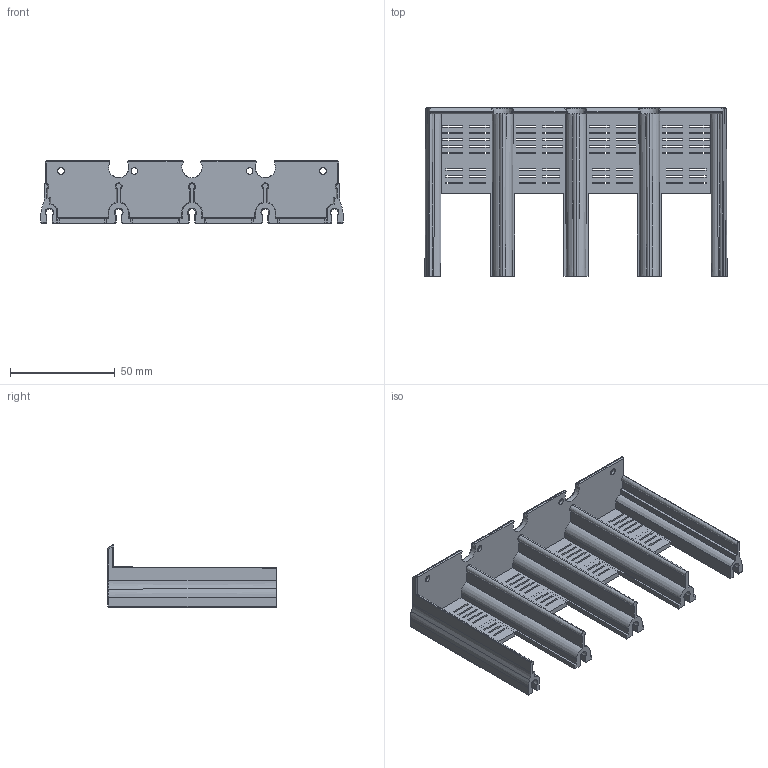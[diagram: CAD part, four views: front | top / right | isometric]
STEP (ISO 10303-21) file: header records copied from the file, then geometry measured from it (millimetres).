
FILE_DESCRIPTION (( 'STEP AP203' ), '1' );
FILE_NAME ('5-250-4-傷赽欶.STEP', '2024-11-05T02:37:56', ( 'A' ), ( '' ), 'SwSTEP 2.0', 'SolidWorks 2018', '' );
FILE_SCHEMA (( 'CONFIG_CONTROL_DESIGN' ));
Length unit declared in the file: millimetre
Products named in the file (1): 5-250-4-傷赽欶
Bounding box: 144.18 x 80.5 x 29.63 mm (x, y, z)
Volume: 47521.9 mm3; surface area: 43976.5 mm2
Topology: 1 solids, 1 shells, 504 faces, 1435 edges, 925 vertices
Faces by surface type: plane 365, cone 52, cylinder 49, bspline 22, sphere 13, torus 3
Entity records: 16997 total; most frequent: CARTESIAN_POINT 3927, ORIENTED_EDGE 2862, DIRECTION 2373, EDGE_CURVE 1431, VECTOR 1125, LINE 1125, VERTEX_POINT 925, EDGE_LOOP 636
